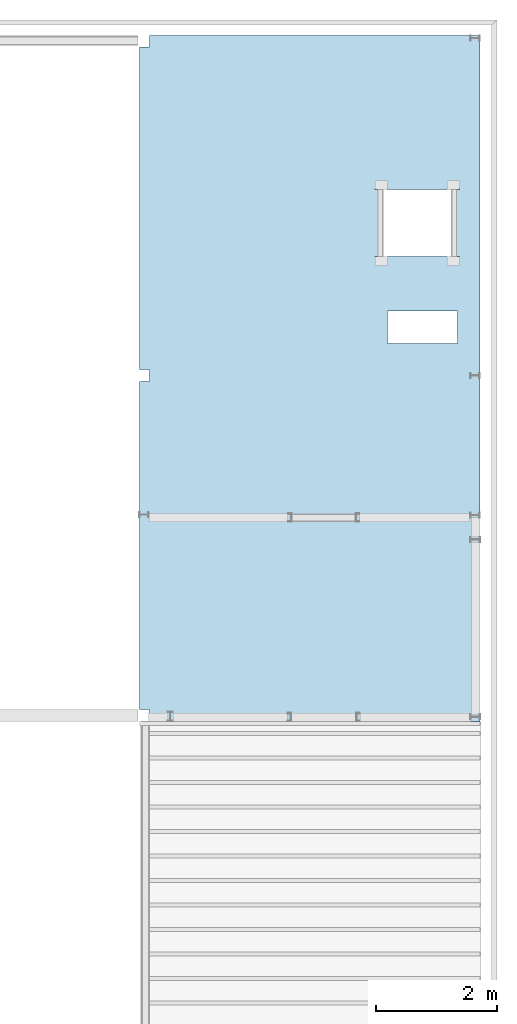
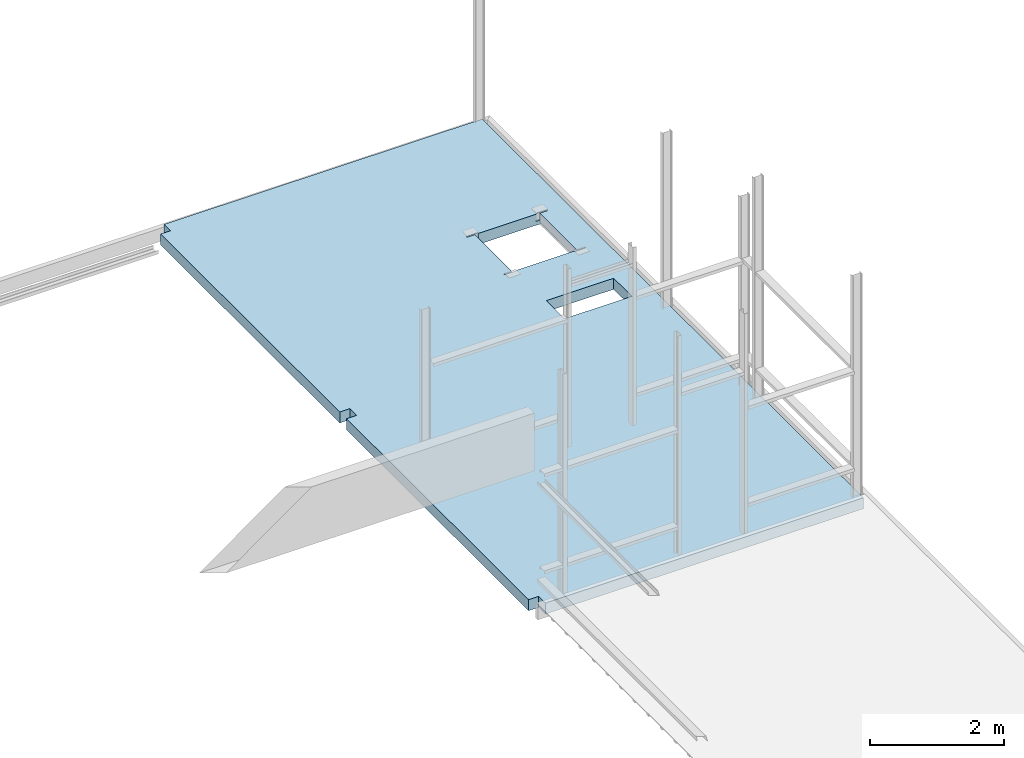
# One storey, part 8 of 8: 1 slab, 2 openings.
"""IFC2X3 building model written with IfcOpenShell, lengths in millimetres."""

import ifcopenshell
import ifcopenshell.guid

model = None  # the IFC model being written
_history = None  # IfcOwnerHistory: only IFC2X3 demands one
_inside = {}  # id of a spatial element -> (the spatial element, [elements in it])
_under = {}  # id of a project, library or spatial element -> (it, [spatial elements below it])
_declared = {}  # id of a project -> (the project, [libraries it declares])
_typed = {}  # id of a type object -> (the type object, [elements of that type])
_made_of = {}  # id of a material, layer set ... -> (it, [elements and type objects made of it])


def new_model(schema):
    """Start an empty IFC model of exactly this schema.

    Asked for "IFC4X3", IfcOpenShell would pick the latest addendum, in which some entities
    have other attributes; the version numbers below select the first issue.
    IFC2X3 requires an IfcOwnerHistory on every rooted entity: one is made here for all.
    """
    global model, _history
    if schema == "IFC4X3":
        model = ifcopenshell.file(schema_version=(4, 3, 0, 0))
    else:
        model = ifcopenshell.file(schema=schema)
    _inside.clear()
    _under.clear()
    _declared.clear()
    _typed.clear()
    _made_of.clear()
    _history = None
    if model.schema == "IFC2X3":
        org = make("IfcOrganization", Name="unknown")
        user = make(
            "IfcPersonAndOrganization",
            ThePerson=make("IfcPerson", FamilyName="unknown"),
            TheOrganization=org,
        )
        app = make(
            "IfcApplication",
            ApplicationDeveloper=org,
            Version="unknown",
            ApplicationFullName="unknown",
            ApplicationIdentifier="unknown",
        )
        _history = make(
            "IfcOwnerHistory",
            OwningUser=user,
            OwningApplication=app,
            ChangeAction="ADDED",
            CreationDate=0,
        )
    return model


def make(cls, **values):
    """One entity of the class cls with the attributes given. An attribute that is None is left unset."""
    return model.create_entity(
        cls, **{name: value for name, value in values.items() if value is not None}
    )


def entity(cls, *values):
    """Any entity or typed value of the class cls, its attributes in the order of the schema. None: left unset."""
    e = model.create_entity(cls)
    for i, value in enumerate(values):
        if value is not None:
            e[i] = value
    return e


def rooted(cls, **values):
    """An entity with a GlobalId (a new one), such as an element, a storey or a relation."""
    return make(cls, GlobalId=ifcopenshell.guid.new(), OwnerHistory=_history, **values)


def si_unit(unit_type, name, prefix=None):
    """IfcSIUnit, for example si_unit("LENGTHUNIT", "METRE", prefix="MILLI")."""
    return make("IfcSIUnit", UnitType=unit_type, Prefix=prefix, Name=name)


def converted_unit(unit_type, name, factor, base, dimensions=None, offset=None):
    """IfcConversionBasedUnit, such as the inch: factor (a typed value) times the base unit."""
    return make(
        "IfcConversionBasedUnit"
        if offset is None
        else "IfcConversionBasedUnitWithOffset",
        ConversionOffset=offset,
        Dimensions=None
        if dimensions is None
        else entity("IfcDimensionalExponents", *dimensions),
        UnitType=unit_type,
        Name=name,
        ConversionFactor=make(
            "IfcMeasureWithUnit", ValueComponent=factor, UnitComponent=base
        ),
    )


def derived_unit(unit_type, elements):
    """IfcDerivedUnit: a product of units, each with its exponent."""
    return make(
        "IfcDerivedUnit",
        Elements=[
            make("IfcDerivedUnitElement", Unit=unit, Exponent=power)
            for unit, power in elements
        ],
        UnitType=unit_type,
    )


def assignment(units):
    """IfcUnitAssignment: the units of a project."""
    return None if units is None else make("IfcUnitAssignment", Units=units)


def point(xyz):
    """IfcCartesianPoint."""
    return None if xyz is None else make("IfcCartesianPoint", Coordinates=xyz)


def direction(xyz):
    """IfcDirection."""
    return None if xyz is None else make("IfcDirection", DirectionRatios=xyz)


def frame(location, z_axis=None, x_axis=None):
    """IfcAxis2Placement3D, a coordinate frame: its origin and axes. An axis left out is left unset."""
    return make(
        "IfcAxis2Placement3D",
        Location=point(location),
        Axis=direction(z_axis),
        RefDirection=direction(x_axis),
    )


def frame_2d(location, x_axis=None):
    """IfcAxis2Placement2D, a coordinate frame in the plane: its origin and x axis."""
    return make(
        "IfcAxis2Placement2D", Location=point(location), RefDirection=direction(x_axis)
    )


def origin():
    """The frame at (0, 0, 0) with its axes left unset."""
    return frame((0.0, 0.0, 0.0))


def place(relative_to, where):
    """IfcLocalPlacement: puts the frame where relative to a parent placement (None: the world)."""
    return make(
        "IfcLocalPlacement", PlacementRelTo=relative_to, RelativePlacement=where
    )


def context(
    kind, dimensions, precision=None, world=None, true_north=None, identifier=None
):
    """IfcGeometricRepresentationContext, for example the 3D "Model" context."""
    return make(
        "IfcGeometricRepresentationContext",
        ContextIdentifier=identifier,
        ContextType=kind,
        CoordinateSpaceDimension=dimensions,
        Precision=precision,
        WorldCoordinateSystem=world,
        TrueNorth=true_north,
    )


def subcontext(parent, identifier, kind, view, scale=None):
    """IfcGeometricRepresentationSubContext, for example "Body" below "Model"."""
    return make(
        "IfcGeometricRepresentationSubContext",
        ContextIdentifier=identifier,
        ContextType=kind,
        ParentContext=parent,
        TargetScale=scale,
        TargetView=view,
    )


def project(units=None, contexts=None):
    """IfcProject with its units and contexts."""
    return rooted(
        "IfcProject",
        Name="project",
        RepresentationContexts=contexts,
        UnitsInContext=assignment(units),
    )


def spatial(cls, under=None, at=None, **own):
    """A site, building, storey or space (cls), placed at a placement, below another one or the project."""
    s = rooted(cls, ObjectPlacement=at, **own)
    if under is not None:
        _under.setdefault(under.id(), (under, []))[1].append(s)
    return s


def profile(cls, at=None, kind="AREA", **sizes):
    """A parametric profile (cls). Its sizes go by their IFC names, for example OverallWidth=200.0."""
    return make(cls, ProfileType=kind, Position=at, **sizes)


def rectangle(**sizes):
    """IfcRectangleProfileDef."""
    return profile("IfcRectangleProfileDef", **sizes)


def extrude(swept, where, along, depth):
    """IfcExtrudedAreaSolid: the profile swept, set in the frame where, extruded along a direction by depth."""
    return make(
        "IfcExtrudedAreaSolid",
        SweptArea=swept,
        Position=where,
        ExtrudedDirection=direction(along),
        Depth=depth,
    )


def faces_of(points, faces, orient=None, outer=None):
    """IfcFace entities. A face is a list of loops; a loop is a list of indices into points, from 0.

    orient and outer hold one flag for each loop. By default every Orientation is true, the
    first loop of a face is its IfcFaceOuterBound and the others are IfcFaceBound.
    """
    made = []
    for i, loops in enumerate(faces):
        bounds = []
        for j, loop in enumerate(loops):
            is_outer = j == 0 if outer is None else outer[i][j]
            bounds.append(
                make(
                    "IfcFaceOuterBound" if is_outer else "IfcFaceBound",
                    Bound=make("IfcPolyLoop", Polygon=[points[k] for k in loop]),
                    Orientation=True if orient is None else orient[i][j],
                )
            )
        made.append(make("IfcFace", Bounds=bounds))
    return made


def faceted_brep(points, faces, orient=None, outer=None, voids=None):
    """IfcFacetedBrep: a solid bounded by flat faces; with voids (closed shells), ...WithVoids."""
    shared = [point(p) for p in points]
    hull = make("IfcClosedShell", CfsFaces=faces_of(shared, faces, orient, outer))
    if voids is None:
        return make("IfcFacetedBrep", Outer=hull)
    return make(
        "IfcFacetedBrepWithVoids",
        Outer=hull,
        Voids=[
            make(cls, CfsFaces=faces_of(shared, fs, o, b)) for cls, fs, o, b in voids
        ],
    )


def shape(context_of_items, identifier, shape_type, items):
    """IfcShapeRepresentation: the items that make up one representation, for example the "Body"."""
    return make(
        "IfcShapeRepresentation",
        ContextOfItems=context_of_items,
        RepresentationIdentifier=identifier,
        RepresentationType=shape_type,
        Items=items,
    )


def material(Name=None, Category=None):
    """IfcMaterial."""
    return make("IfcMaterial", Name=Name, Category=Category)


def made_of(thing, what):
    """Note that an element or type object is made of a material, layer set ...; save() writes the relation."""
    if what is not None:
        _made_of.setdefault(what.id(), (what, []))[1].append(thing)
    return thing


def type_object(cls, material=None, **own):
    """A type object (cls), such as IfcWallType, which elements share."""
    return made_of(rooted(cls, **own), material)


def element(
    cls,
    number,
    at=None,
    inside=None,
    cuts=None,
    type_object=None,
    material=None,
    context=None,
    identifier="Body",
    shape_type=None,
    held_by="IfcProductDefinitionShape",
    body=None,
    shapes=None,
    **own,
):
    """One element of the class cls, such as IfcWall. Its Tag is "e" and its number.

    at: its placement. inside: the storey or other place that contains it. cuts: it is an
    opening in that element (IfcRelVoidsElement). A single representation is given by context,
    identifier, shape_type and body (its items); several are given by shapes. held_by: the class
    of the entity that holds the representations. save() writes the other relations.
    """
    e = rooted(cls, Tag="e%d" % number, ObjectPlacement=at, **own)
    if body is not None:
        shapes = [shape(context, identifier, shape_type, body)]
    if shapes is not None:
        e.Representation = make(held_by, Representations=shapes)
    if inside is not None:
        _inside.setdefault(inside.id(), (inside, []))[1].append(e)
    if cuts is not None:
        rooted(
            "IfcRelVoidsElement", RelatingBuildingElement=cuts, RelatedOpeningElement=e
        )
    if type_object is not None:
        _typed.setdefault(type_object.id(), (type_object, []))[1].append(e)
    return made_of(e, material)


def aggregate(whole, parts):
    """IfcRelAggregates: a whole, such as a stair, and the parts it consists of."""
    return rooted("IfcRelAggregates", RelatingObject=whole, RelatedObjects=parts)


def save(model, path):
    """Write the relations noted so far, then the file.

    IfcRelAggregates (storeys below a building ...), IfcRelContainedInSpatialStructure (elements
    in a storey), IfcRelDefinesByType, IfcRelAssociatesMaterial and IfcRelDeclares: one each for
    every whole, place, type object, material and project.
    """
    for whole, parts in _under.values():
        aggregate(whole, parts)
    for where, things in _inside.values():
        rooted(
            "IfcRelContainedInSpatialStructure",
            RelatedElements=things,
            RelatingStructure=where,
        )
    for kind, things in _typed.values():
        rooted("IfcRelDefinesByType", RelatedObjects=things, RelatingType=kind)
    for what, things in _made_of.values():
        rooted("IfcRelAssociatesMaterial", RelatedObjects=things, RelatingMaterial=what)
    for by, libraries in _declared.values():
        rooted("IfcRelDeclares", RelatingContext=by, RelatedDefinitions=libraries)
    model.write(path)


model = new_model("IFC2X3")

# Units and contexts
model_context = context("Model", 3, precision=0.01, world=origin(), true_north=direction((6.123031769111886e-17, 1.0)))
plan_context = context("Plan", 3, precision=0.01, world=origin(), true_north=direction((6.123031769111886e-17, 1.0)))
body_context = subcontext(model_context, "Body", "Model", "MODEL_VIEW")
ifc_project = project(units=[si_unit("LENGTHUNIT", "METRE", prefix="MILLI"), si_unit("AREAUNIT", "SQUARE_METRE"), si_unit("VOLUMEUNIT", "CUBIC_METRE"), converted_unit("PLANEANGLEUNIT", "DEGREE", entity("IfcPlaneAngleMeasure", 0.017453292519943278), si_unit("PLANEANGLEUNIT", "RADIAN"), dimensions=[0, 0, 0, 0, 0, 0, 0]), si_unit("MASSUNIT", "GRAM", prefix="KILO"), derived_unit("MASSDENSITYUNIT", [(si_unit("MASSUNIT", "GRAM", prefix="KILO"), 1), (si_unit("LENGTHUNIT", "METRE"), -3)]), derived_unit("IONCONCENTRATIONUNIT", [(si_unit("MASSUNIT", "GRAM", prefix="KILO"), 1), (si_unit("LENGTHUNIT", "METRE"), -3)]), derived_unit("MOMENTOFINERTIAUNIT", [(si_unit("LENGTHUNIT", "METRE"), 4)]), si_unit("TIMEUNIT", "SECOND"), si_unit("FREQUENCYUNIT", "HERTZ"), si_unit("THERMODYNAMICTEMPERATUREUNIT", "DEGREE_CELSIUS"), derived_unit("THERMALTRANSMITTANCEUNIT", [(si_unit("MASSUNIT", "GRAM", prefix="KILO"), 1), (si_unit("THERMODYNAMICTEMPERATUREUNIT", "KELVIN"), -1), (si_unit("TIMEUNIT", "SECOND"), -3)]), derived_unit("THERMALCONDUCTANCEUNIT", [(si_unit("MASSUNIT", "GRAM", prefix="KILO"), 1), (si_unit("THERMODYNAMICTEMPERATUREUNIT", "KELVIN"), -1), (si_unit("TIMEUNIT", "SECOND"), -3), (si_unit("LENGTHUNIT", "METRE"), 1)]), derived_unit("VOLUMETRICFLOWRATEUNIT", [(si_unit("LENGTHUNIT", "METRE", prefix="DECI"), 3), (si_unit("TIMEUNIT", "SECOND"), -1)]), derived_unit("MASSFLOWRATEUNIT", [(si_unit("MASSUNIT", "GRAM", prefix="KILO"), 1), (si_unit("TIMEUNIT", "SECOND"), -1)]), derived_unit("ROTATIONALFREQUENCYUNIT", [(si_unit("TIMEUNIT", "SECOND"), -1)]), si_unit("ELECTRICCURRENTUNIT", "AMPERE"), si_unit("ELECTRICVOLTAGEUNIT", "VOLT"), si_unit("POWERUNIT", "WATT"), si_unit("FORCEUNIT", "NEWTON", prefix="KILO"), si_unit("ILLUMINANCEUNIT", "LUX"), si_unit("LUMINOUSFLUXUNIT", "LUMEN"), si_unit("LUMINOUSINTENSITYUNIT", "CANDELA"), si_unit("ENERGYUNIT", "JOULE"), derived_unit("USERDEFINED", [(si_unit("MASSUNIT", "GRAM", prefix="KILO"), -1), (si_unit("LENGTHUNIT", "METRE"), -2), (si_unit("TIMEUNIT", "SECOND"), 3), (si_unit("LUMINOUSFLUXUNIT", "LUMEN"), 1)]), derived_unit("USERDEFINED", [(si_unit("MASSUNIT", "GRAM", prefix="KILO"), 1), (si_unit("TIMEUNIT", "SECOND"), -3), (si_unit("LENGTHUNIT", "METRE"), 3), (si_unit("ELECTRICCURRENTUNIT", "AMPERE"), -2)]), derived_unit("SOUNDPOWERUNIT", [(si_unit("MASSUNIT", "GRAM", prefix="KILO"), 1), (si_unit("TIMEUNIT", "SECOND"), -3), (si_unit("LENGTHUNIT", "METRE"), 2)]), derived_unit("SOUNDPRESSUREUNIT", [(si_unit("MASSUNIT", "GRAM", prefix="KILO"), 1), (si_unit("LENGTHUNIT", "METRE"), -1), (si_unit("TIMEUNIT", "SECOND"), -2)]), derived_unit("LINEARVELOCITYUNIT", [(si_unit("LENGTHUNIT", "METRE"), 1), (si_unit("TIMEUNIT", "SECOND"), -1)]), si_unit("PRESSUREUNIT", "PASCAL"), derived_unit("USERDEFINED", [(si_unit("MASSUNIT", "GRAM", prefix="KILO"), 1), (si_unit("LENGTHUNIT", "METRE"), -2), (si_unit("TIMEUNIT", "SECOND"), -2)]), derived_unit("LINEARFORCEUNIT", [(si_unit("MASSUNIT", "GRAM", prefix="KILO"), 1), (si_unit("TIMEUNIT", "SECOND"), -2)]), derived_unit("PLANARFORCEUNIT", [(si_unit("MASSUNIT", "GRAM", prefix="KILO"), 1), (si_unit("LENGTHUNIT", "METRE"), -1), (si_unit("TIMEUNIT", "SECOND"), -2)]), derived_unit("SPECIFICHEATCAPACITYUNIT", [(si_unit("THERMODYNAMICTEMPERATUREUNIT", "KELVIN"), -1), (si_unit("LENGTHUNIT", "METRE"), 2), (si_unit("TIMEUNIT", "SECOND"), -2)]), derived_unit("HEATFLUXDENSITYUNIT", [(si_unit("MASSUNIT", "GRAM", prefix="KILO"), 1), (si_unit("TIMEUNIT", "SECOND"), -3)]), derived_unit("HEATINGVALUEUNIT", [(si_unit("LENGTHUNIT", "METRE"), 2), (si_unit("TIMEUNIT", "SECOND"), -2)]), derived_unit("VAPORPERMEABILITYUNIT", [(si_unit("LENGTHUNIT", "METRE"), -1), (si_unit("TIMEUNIT", "SECOND"), 1)]), derived_unit("DYNAMICVISCOSITYUNIT", [(si_unit("MASSUNIT", "GRAM", prefix="KILO"), 1), (si_unit("TIMEUNIT", "SECOND"), -1), (si_unit("LENGTHUNIT", "METRE"), -1)]), derived_unit("THERMALEXPANSIONCOEFFICIENTUNIT", [(si_unit("THERMODYNAMICTEMPERATUREUNIT", "KELVIN"), -1)]), derived_unit("MODULUSOFELASTICITYUNIT", [(si_unit("MASSUNIT", "GRAM", prefix="KILO"), 1), (si_unit("LENGTHUNIT", "METRE"), -1), (si_unit("TIMEUNIT", "SECOND"), -2)]), derived_unit("ISOTHERMALMOISTURECAPACITYUNIT", [(si_unit("MASSUNIT", "GRAM", prefix="KILO"), -1), (si_unit("LENGTHUNIT", "METRE"), 3)]), derived_unit("MOISTUREDIFFUSIVITYUNIT", [(si_unit("TIMEUNIT", "SECOND"), -1), (si_unit("LENGTHUNIT", "METRE"), 2)]), derived_unit("MASSPERLENGTHUNIT", [(si_unit("MASSUNIT", "GRAM", prefix="KILO"), 1), (si_unit("LENGTHUNIT", "METRE"), -1)]), derived_unit("THERMALRESISTANCEUNIT", [(si_unit("MASSUNIT", "GRAM", prefix="KILO"), -1), (si_unit("TIMEUNIT", "SECOND"), 3), (si_unit("THERMODYNAMICTEMPERATUREUNIT", "KELVIN"), 1)]), derived_unit("ACCELERATIONUNIT", [(si_unit("LENGTHUNIT", "METRE"), 1), (si_unit("TIMEUNIT", "SECOND"), -2)]), derived_unit("ANGULARVELOCITYUNIT", [(si_unit("TIMEUNIT", "SECOND"), -1), (si_unit("PLANEANGLEUNIT", "RADIAN"), 1)]), derived_unit("LINEARSTIFFNESSUNIT", [(si_unit("MASSUNIT", "GRAM", prefix="KILO"), 1), (si_unit("TIMEUNIT", "SECOND"), -2)]), derived_unit("WARPINGCONSTANTUNIT", [(si_unit("LENGTHUNIT", "METRE"), 6)]), derived_unit("LINEARMOMENTUNIT", [(si_unit("MASSUNIT", "GRAM", prefix="KILO"), 1), (si_unit("LENGTHUNIT", "METRE"), 1), (si_unit("TIMEUNIT", "SECOND"), -2)]), derived_unit("TORQUEUNIT", [(si_unit("MASSUNIT", "GRAM", prefix="KILO"), 1), (si_unit("LENGTHUNIT", "METRE"), 2), (si_unit("TIMEUNIT", "SECOND"), -2)])], contexts=[model_context, plan_context])

# Site, building, storey
site_placement = place(None, origin())
site = spatial("IfcSite", under=ifc_project, at=site_placement, Name="Default", CompositionType="ELEMENT")
building_placement = place(site_placement, origin())
building = spatial("IfcBuilding", under=site, at=building_placement, CompositionType="ELEMENT")
storey_placement = place(building_placement, frame((0.0, 0.0, 3410.0)))
storey = spatial("IfcBuildingStorey", under=building, at=storey_placement, Name="01 eerste verdieping", CompositionType="ELEMENT", Elevation=3410.0000000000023)

# Slab, openings
ifc_material = material(Name="prefab beton")
slab_type = type_object("IfcSlabType", Name="Floor:23.21_FL_LB_kanaalplaatvloer 200_dw", PredefinedType="FLOOR")
slab_placement = place(storey_placement, origin())
slab = element("IfcSlab", 1, at=slab_placement, inside=storey, type_object=slab_type, material=ifc_material, Name="Floor:23.21_FL_LB_kanaalplaatvloer 200_dw", ObjectType="Floor:23.21_FL_LB_kanaalplaatvloer 200_dw", PredefinedType="FLOOR", context=body_context, shape_type="Brep", body=[
    faceted_brep([(54456.19293736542, 35082.43745729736, -250.0), (54456.19293736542, 35083.43745729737, -250.0), (54456.19293736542, 35083.43745729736, -178.0), (54456.19293736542, 35082.43745729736, -178.0), (54456.19293736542, 36191.437457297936, -250.0), (54456.19293736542, 36192.43745729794, -250.0), (54456.19293736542, 36192.43745729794, -178.0), (54456.19293736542, 36191.437457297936, -178.0), (55566.192937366, 35083.43745729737, -250.0), (55566.192937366, 35082.43745729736, -250.0), (55566.192937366, 35082.43745729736, -178.0), (55566.192937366, 35083.43745729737, -178.0), (55566.192937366, 36192.43745729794, -250.0), (55566.192937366, 36191.437457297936, -250.0), (55566.192937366, 36191.437457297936, -178.0), (55566.192937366, 36192.43745729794, -178.0), (56046.1929373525, 38732.67034020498, -250.0), (56046.1929373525, 27392.67048572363, -250.0), (55676.19293735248, 33638.67050785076, -250.0), (55676.19293735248, 34178.67050785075, -250.0), (55666.192937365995, 35083.43745729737, -250.0), (55666.192937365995, 36191.437457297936, -250.0), (54356.19293736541, 36191.437457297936, -250.0), (50586.19293735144, 38732.67034020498, -250.0), (54516.19293735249, 33638.67050785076, -250.0), (50586.1929373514, 27592.670340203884, -250.0), (50586.192937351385, 27392.67048572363, -250.0), (50586.1929373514, 33012.67034020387, -250.0), (50414.19293735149, 33012.67034020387, -250.0), (50414.19293735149, 27592.670340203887, -250.0), (50586.19293735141, 33212.67034020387, -250.0), (54516.19293735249, 34178.67050785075, -250.0), (54356.192937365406, 35083.43745729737, -250.0), (50586.19293735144, 38542.67050784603, -250.0), (50414.192937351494, 33212.67034020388, -250.0), (50414.192937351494, 38542.67050784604, -250.0), (50414.19293735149, 33012.67034020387, -50.0), (50414.19293735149, 27592.670340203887, -50.0), (50586.1929373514, 27592.670340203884, -50.0), (50586.1929373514, 33012.67034020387, -50.0), (54516.19293735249, 33638.67050785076, -50.0), (56046.1929373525, 27392.67048572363, -50.0), (50586.192937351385, 27392.67048572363, -50.0), (55676.19293735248, 33638.67050785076, -50.0), (56046.1929373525, 38732.67034020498, -50.0), (55706.19293736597, 35070.26985427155, -50.0), (55706.19293736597, 35083.43745729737, -50.0), (55706.19293736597, 36191.43745729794, -50.0), (55706.19293736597, 36204.60506032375, -50.0), (55506.192937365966, 36204.60506032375, -50.0), (54516.19293736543, 36204.60506032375, -50.0), (54316.19293736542, 36204.60506032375, -50.0), (50586.19293735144, 38732.67034020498, -50.0), (50586.19293735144, 38542.67050784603, -50.0), (54316.19293736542, 36191.437457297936, -50.0), (50586.19293735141, 33212.67034020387, -50.0), (50414.192937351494, 33212.67034020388, -50.0), (50414.192937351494, 38542.67050784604, -50.0), (54516.19293735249, 34178.67050785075, -50.0), (54316.19293736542, 35070.26985427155, -50.0), (54316.19293736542, 35083.43745729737, -50.0), (54453.69293736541, 35083.43745729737, -50.0), (54453.69293736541, 36191.437457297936, -50.0), (55506.192937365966, 36192.43745729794, -50.0), (54516.19293736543, 36192.43745729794, -50.0), (55568.69293736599, 36191.43745729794, -50.0), (55568.69293736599, 35083.43745729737, -50.0), (55676.19293735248, 34178.67050785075, -50.0), (55506.192937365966, 35070.26985427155, -50.0), (54516.19293736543, 35070.26985427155, -50.0), (54516.19293736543, 35082.43745729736, -50.0), (55506.192937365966, 35082.43745729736, -50.0), (55506.192937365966, 36192.43745729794, -178.0), (54516.19293736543, 36192.43745729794, -178.0), (54516.19293736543, 35082.43745729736, -178.0), (55506.192937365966, 35082.43745729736, -178.0), (54516.19293736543, 35071.43745729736, -170.0), (54516.19293736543, 35071.43745729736, -56.0), (54516.19293736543, 35071.14168327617, -52.93776447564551), (54516.19293736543, 35079.43745729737, -178.0), (54516.19293736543, 35073.780603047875, -175.65685424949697), (54516.19293736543, 36195.437457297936, -178.0), (54516.19293736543, 36203.73323131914, -52.93776447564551), (54516.19293736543, 36203.437457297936, -56.0), (54516.19293736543, 36203.437457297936, -170.0), (54516.19293736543, 36201.09431154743, -175.65685424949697), (54316.19293736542, 35079.43745729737, -178.0), (54316.19293736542, 35083.43745729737, -178.0), (54316.19293736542, 35071.14168327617, -52.93776447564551), (54316.19293736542, 35071.43745729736, -56.0), (54316.19293736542, 35071.43745729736, -170.0), (54316.19293736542, 35073.780603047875, -175.65685424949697), (54316.19293736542, 36203.437457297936, -170.0), (54316.19293736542, 36203.437457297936, -56.0), (54316.19293736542, 36203.73323131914, -52.937764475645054), (54316.19293736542, 36191.437457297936, -178.0), (54316.19293736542, 36195.437457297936, -178.0), (54316.19293736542, 36201.09431154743, -175.65685424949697), (54448.38963650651, 35083.43745729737, -52.19669914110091), (54446.19293736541, 35083.43745729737, -178.0), (54446.19293736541, 35083.43745729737, -57.5), (55573.996238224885, 35083.43745729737, -52.19669914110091), (55576.19293736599, 35083.43745729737, -57.5), (55576.19293736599, 35083.43745729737, -178.0), (55706.19293736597, 35083.43745729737, -178.0), (54446.19293736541, 36191.437457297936, -178.0), (55506.192937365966, 35079.43745729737, -178.0), (55706.19293736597, 35079.43745729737, -178.0), (55576.19293736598, 36191.437457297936, -178.0), (55706.19293736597, 36191.437457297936, -178.0), (55706.19293736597, 36195.437457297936, -178.0), (55506.192937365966, 36195.437457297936, -178.0), (55506.192937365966, 35073.780603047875, -175.65685424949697), (55706.19293736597, 35073.780603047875, -175.65685424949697), (55506.192937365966, 35071.43745729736, -170.0), (55706.19293736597, 35071.43745729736, -170.0), (55506.192937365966, 35071.43745729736, -56.0), (55706.19293736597, 35071.43745729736, -56.0), (55506.192937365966, 35071.14168327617, -52.93776447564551), (55706.19293736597, 35071.14168327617, -52.93776447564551), (54448.38963650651, 36191.437457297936, -52.19669914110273), (54446.19293736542, 36191.437457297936, -57.50000000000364), (55573.996238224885, 36191.437457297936, -52.19669914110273), (55576.19293736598, 36191.437457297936, -57.50000000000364), (55706.19293736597, 36201.09431154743, -175.65685424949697), (55506.192937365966, 36201.09431154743, -175.65685424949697), (55706.19293736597, 36203.437457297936, -170.0), (55506.192937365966, 36203.437457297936, -170.0), (55506.192937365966, 36203.437457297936, -56.0), (55706.19293736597, 36203.437457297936, -56.0), (55706.19293736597, 36203.73323131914, -52.937764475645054), (55506.192937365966, 36203.73323131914, -52.93776447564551), (54356.192937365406, 35083.43745729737, -247.5), (54358.389636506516, 35083.43745729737, -242.1966991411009), (54363.692937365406, 35083.43745729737, -240.0), (54431.192937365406, 35083.43745729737, -240.0), (54433.844587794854, 35083.43745729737, -238.9016504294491), (54436.49623822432, 35083.43745729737, -237.80330085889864), (54439.14788865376, 35083.43745729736, -236.70495128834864), (54441.79953908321, 35083.43745729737, -235.60660171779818), (54443.04295621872, 35083.43745729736, -232.60472720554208), (54444.28637335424, 35083.43745729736, -229.60285269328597), (54446.19293736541, 35083.43745729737, -225.0), (55658.692937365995, 35083.43745729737, -240.0), (55663.996238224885, 35083.43745729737, -242.1966991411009), (55666.192937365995, 35083.43745729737, -247.5), (55576.19293736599, 35083.43745729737, -225.0), (55578.09950137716, 35083.43745729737, -229.6028526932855), (55579.34291851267, 35083.43745729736, -232.60472720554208), (55580.58633564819, 35083.43745729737, -235.60660171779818), (55583.23798607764, 35083.43745729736, -236.70495128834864), (55585.88963650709, 35083.43745729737, -237.80330085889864), (55588.54128693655, 35083.43745729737, -238.9016504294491), (55591.19293736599, 35083.43745729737, -240.0), (54363.692937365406, 36191.437457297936, -240.0), (54358.389636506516, 36191.437457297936, -242.1966991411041), (54356.192937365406, 36191.437457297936, -247.50000000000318), (54446.19293736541, 36191.437457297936, -225.0), (54445.09458779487, 36191.437457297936, -227.65165042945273), (54443.9962382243, 36191.437457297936, -230.30330085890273), (54442.89788865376, 36191.437457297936, -232.95495128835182), (54441.79953908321, 36191.437457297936, -235.60660171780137), (54439.14788865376, 36191.437457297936, -236.70495128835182), (54436.4962382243, 36191.437457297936, -237.80330085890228), (54433.844587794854, 36191.437457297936, -238.90165042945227), (54431.192937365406, 36191.437457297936, -240.0), (55666.192937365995, 36191.437457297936, -247.50000000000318), (55663.996238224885, 36191.437457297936, -242.1966991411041), (55658.692937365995, 36191.437457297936, -240.0), (55591.19293736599, 36191.437457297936, -240.0), (55588.54128693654, 36191.437457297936, -238.90165042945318), (55585.8896365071, 36191.437457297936, -237.80330085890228), (55583.23798607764, 36191.437457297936, -236.70495128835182), (55580.58633564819, 36191.437457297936, -235.60660171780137), (55579.487986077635, 36191.437457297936, -232.95495128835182), (55578.38963650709, 36191.437457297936, -230.30330085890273), (55577.29128693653, 36191.437457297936, -227.65165042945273), (55576.19293736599, 36191.437457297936, -225.0)], [[[0, 1, 2, 3]], [[4, 5, 6, 7]], [[8, 9, 10, 11]], [[12, 13, 14, 15]], [[16, 17, 18]], [[16, 18, 19]], [[20, 16, 19]], [[16, 20, 21]], [[16, 21, 12]], [[12, 5, 16]], [[16, 5, 22]], [[22, 23, 16]], [[18, 17, 24]], [[17, 25, 24]], [[25, 17, 26]], [[27, 24, 25]], [[28, 27, 25]], [[29, 28, 25]], [[24, 27, 30]], [[31, 24, 30]], [[30, 32, 31]], [[30, 33, 22]], [[30, 34, 33]], [[22, 32, 30]], [[34, 35, 33]], [[33, 23, 22]], [[31, 32, 0]], [[32, 1, 0]], [[31, 0, 9]], [[31, 9, 19]], [[19, 9, 20]], [[20, 9, 8]], [[13, 12, 21]], [[4, 22, 5]], [[36, 37, 38]], [[39, 36, 38]], [[39, 38, 40]], [[40, 38, 41]], [[38, 42, 41]], [[40, 41, 43]], [[43, 41, 44]], [[45, 43, 44]], [[46, 45, 44]], [[44, 47, 46]], [[47, 44, 48]], [[44, 49, 48]], [[50, 49, 44]], [[50, 44, 51]], [[52, 51, 44]], [[52, 53, 51]], [[51, 53, 54]], [[53, 55, 54]], [[56, 55, 53]], [[53, 57, 56]], [[55, 40, 58]], [[40, 55, 39]], [[59, 55, 58]], [[60, 54, 55]], [[55, 59, 60]], [[60, 61, 54]], [[62, 54, 61]], [[49, 50, 63]], [[64, 63, 50]], [[65, 46, 47]], [[46, 65, 66]], [[45, 67, 43]], [[68, 67, 45]], [[69, 58, 68]], [[69, 68, 70]], [[71, 70, 68]], [[58, 67, 68]], [[69, 59, 58]], [[26, 17, 41, 42]], [[35, 34, 56, 57]], [[28, 29, 37, 36]], [[16, 23, 52, 44]], [[17, 16, 44, 41]], [[33, 35, 57, 53]], [[23, 33, 53, 52]], [[30, 27, 39, 55]], [[25, 26, 42, 38]], [[27, 28, 36, 39]], [[34, 30, 55, 56]], [[29, 25, 38, 37]], [[5, 12, 15, 72, 63, 64, 73, 6]], [[9, 0, 3, 74, 70, 71, 75, 10]], [[76, 77, 78, 69, 70, 74, 79, 80]], [[81, 73, 64, 50, 82, 83, 84, 85]], [[86, 87, 60, 59, 88, 89, 90, 91]], [[92, 93, 94, 51, 54, 95, 96, 97]], [[98, 61, 60, 87, 99, 100]], [[46, 66, 101, 102, 103, 104]], [[3, 2, 99, 87, 86, 79, 74]], [[73, 81, 96, 95, 105, 7, 6]], [[75, 106, 107, 104, 103, 11, 10]], [[15, 14, 108, 109, 110, 111, 72]], [[79, 86, 91, 80]], [[112, 113, 107, 106]], [[91, 90, 76, 80]], [[114, 115, 113, 112]], [[77, 76, 90, 89]], [[115, 114, 116, 117]], [[89, 88, 78, 77]], [[116, 118, 119, 117]], [[59, 69, 78, 88]], [[119, 118, 68, 45]], [[54, 62, 120, 121, 105, 95]], [[122, 65, 47, 109, 108, 123]], [[85, 97, 96, 81]], [[111, 110, 124, 125]], [[84, 92, 97, 85]], [[124, 126, 127, 125]], [[92, 84, 83, 93]], [[128, 127, 126, 129]], [[83, 82, 94, 93]], [[129, 130, 131, 128]], [[94, 82, 50, 51]], [[48, 49, 131, 130]], [[32, 132, 133, 134, 135, 136, 137, 138, 139, 140, 141, 142, 99, 2, 1]], [[143, 144, 145, 20, 8, 11, 103, 146, 147, 148, 149, 150, 151, 152, 153]], [[154, 155, 156, 22, 4, 7, 105, 157, 158, 159, 160, 161, 162, 163, 164, 165]], [[21, 166, 167, 168, 169, 170, 171, 172, 173, 174, 175, 176, 177, 108, 14, 13]], [[98, 120, 62, 61]], [[100, 121, 120, 98]], [[121, 100, 99, 142, 157, 105]], [[141, 140, 139, 161, 160, 159, 158, 157, 142]], [[161, 139, 138, 137, 136, 135, 165, 164, 163, 162]], [[154, 165, 135, 134]], [[143, 153, 169, 168]], [[133, 155, 154, 134]], [[132, 156, 155, 133]], [[22, 156, 132, 32]], [[106, 75, 71, 68, 118, 116, 114, 112]], [[127, 128, 131, 49, 63, 72, 111, 125]], [[115, 117, 119, 45, 46, 104, 107, 113]], [[110, 109, 47, 48, 130, 129, 126, 124]], [[66, 65, 122, 101]], [[122, 123, 102, 101]], [[103, 102, 123, 108, 177, 146]], [[175, 174, 173, 149, 148, 147, 146, 177, 176]], [[172, 171, 170, 169, 153, 152, 151, 150, 149, 173]], [[143, 168, 167, 144]], [[167, 166, 145, 144]], [[20, 145, 166, 21]], [[19, 18, 43, 67]], [[31, 19, 67, 58]], [[24, 31, 58, 40]], [[18, 24, 40, 43]]]),
])
opening_1_placement = place(slab_placement, origin())
element("IfcOpeningElement", 2, at=opening_1_placement, cuts=slab, Name="Floor:23.21_FL_LB_kanaalplaatvloer 200_dw", ObjectType="Opening", context=body_context, shape_type="SweptSolid", body=[
    extrude(rectangle(XDim=1110.0000000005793, YDim=1110.000000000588, at=frame_2d((0.0, -4.320099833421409e-12), x_axis=(1.0, 0.0))), frame((55011.19293736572, 35637.43745729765, -50.0), z_axis=(0.0, 0.0, 1.0), x_axis=(0.0, -1.0, 0.0)), (0.0, 0.0, -1.0), 200.0),
])
opening_2_placement = place(slab_placement, origin())
element("IfcOpeningElement", 3, at=opening_2_placement, cuts=slab, Name="Floor:23.21_FL_LB_kanaalplaatvloer 200_dw", ObjectType="Opening", context=body_context, shape_type="SweptSolid", body=[
    extrude(rectangle(XDim=1159.9999999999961, YDim=539.9999999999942, at=frame_2d((-8.640199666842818e-12, 2.1600499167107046e-12), x_axis=(1.0, 0.0))), frame((55096.192937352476, 33908.67050785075, -50.0), z_axis=(0.0, 0.0, -1.0), x_axis=(-1.0, 0.0, 0.0)), (0.0, 0.0, 1.0), 200.0),
])

save(model, "model.ifc")
